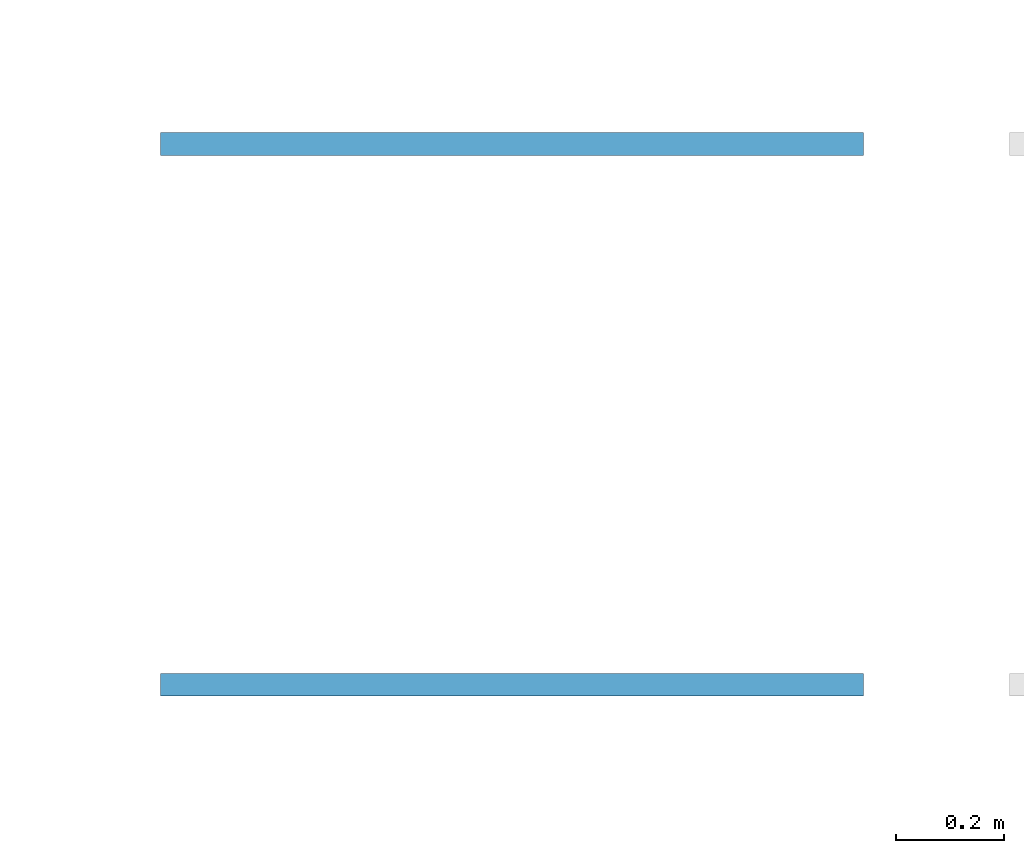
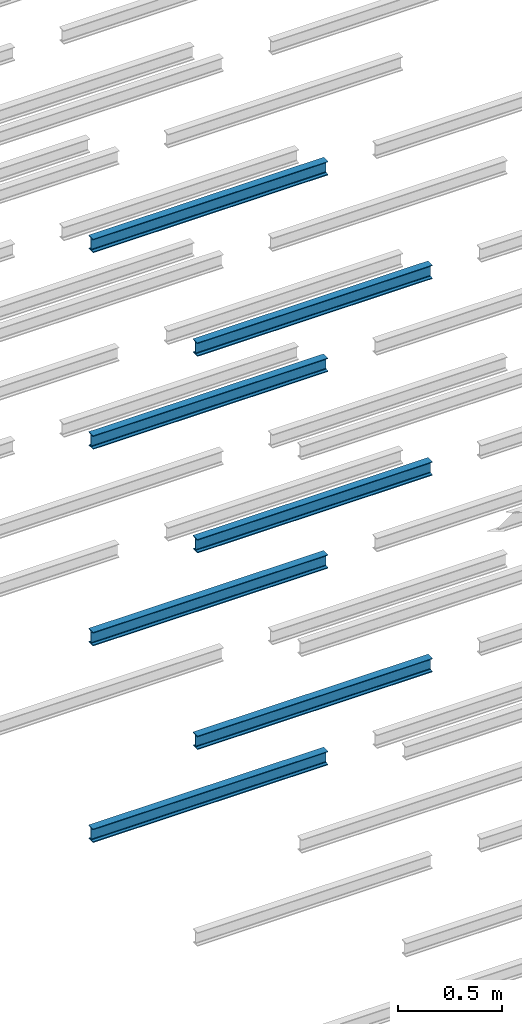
# One storey, part 79 of 290: 7 beams.
"""IFC2X3 building model written with IfcOpenShell, lengths in metres."""

from ifc_helpers import new_model, entity, si_unit, converted_unit, derived_unit, direction, frame, frame_2d, origin, place, context, subcontext, project, spatial, polyline, circle_curve, parameter, trimmed, segment, composite_curve, outline, extrude, material, type_object, element, save


model = new_model("IFC2X3")

# Units and contexts
model_context = context("Model", 3, precision=1e-05, world=origin(), true_north=direction((6.12303176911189e-17, 1.0)))
body_context = subcontext(model_context, "Body", "Model", "MODEL_VIEW")
ifc_project = project(units=[si_unit("LENGTHUNIT", "METRE"), si_unit("AREAUNIT", "SQUARE_METRE"), si_unit("VOLUMEUNIT", "CUBIC_METRE"), converted_unit("PLANEANGLEUNIT", "DEGREE", entity("IfcRatioMeasure", 0.0174532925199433), si_unit("PLANEANGLEUNIT", "RADIAN"), dimensions=[0, 0, 0, 0, 0, 0, 0]), si_unit("MASSUNIT", "GRAM", prefix="KILO"), derived_unit("MASSDENSITYUNIT", [(si_unit("MASSUNIT", "GRAM", prefix="KILO"), 1), (si_unit("LENGTHUNIT", "METRE"), -3)]), derived_unit("MOMENTOFINERTIAUNIT", [(si_unit("LENGTHUNIT", "METRE"), 4)]), si_unit("TIMEUNIT", "SECOND"), si_unit("FREQUENCYUNIT", "HERTZ"), si_unit("THERMODYNAMICTEMPERATUREUNIT", "DEGREE_CELSIUS"), derived_unit("THERMALTRANSMITTANCEUNIT", [(si_unit("MASSUNIT", "GRAM", prefix="KILO"), 1), (si_unit("THERMODYNAMICTEMPERATUREUNIT", "KELVIN"), -1), (si_unit("TIMEUNIT", "SECOND"), -3)]), derived_unit("VOLUMETRICFLOWRATEUNIT", [(si_unit("LENGTHUNIT", "METRE"), 3), (si_unit("TIMEUNIT", "SECOND"), -1)]), si_unit("ELECTRICCURRENTUNIT", "AMPERE"), si_unit("ELECTRICVOLTAGEUNIT", "VOLT"), si_unit("POWERUNIT", "WATT"), si_unit("FORCEUNIT", "NEWTON", prefix="KILO"), si_unit("ILLUMINANCEUNIT", "LUX"), si_unit("LUMINOUSFLUXUNIT", "LUMEN"), si_unit("LUMINOUSINTENSITYUNIT", "CANDELA"), derived_unit("USERDEFINED", [(si_unit("MASSUNIT", "GRAM", prefix="KILO"), -1), (si_unit("LENGTHUNIT", "METRE"), -2), (si_unit("TIMEUNIT", "SECOND"), 3), (si_unit("LUMINOUSFLUXUNIT", "LUMEN"), 1)]), derived_unit("LINEARVELOCITYUNIT", [(si_unit("LENGTHUNIT", "METRE"), 1), (si_unit("TIMEUNIT", "SECOND"), -1)]), si_unit("PRESSUREUNIT", "PASCAL"), derived_unit("USERDEFINED", [(si_unit("LENGTHUNIT", "METRE"), -2), (si_unit("MASSUNIT", "GRAM", prefix="KILO"), 1), (si_unit("TIMEUNIT", "SECOND"), -2)]), derived_unit("LINEARFORCEUNIT", [(si_unit("MASSUNIT", "GRAM", prefix="KILO"), 1), (si_unit("LENGTHUNIT", "METRE"), 1), (si_unit("TIMEUNIT", "SECOND"), -2), (si_unit("LENGTHUNIT", "METRE"), -1)]), derived_unit("PLANARFORCEUNIT", [(si_unit("MASSUNIT", "GRAM", prefix="KILO"), 1), (si_unit("LENGTHUNIT", "METRE"), 1), (si_unit("TIMEUNIT", "SECOND"), -2), (si_unit("LENGTHUNIT", "METRE"), -2)])], contexts=[model_context])

# Site, building, storey
site_placement = place(None, origin())
site = spatial("IfcSite", under=ifc_project, at=site_placement, Name="Default", CompositionType="ELEMENT")
building_placement = place(site_placement, origin())
building = spatial("IfcBuilding", under=site, at=building_placement, CompositionType="ELEMENT")
storey_placement = place(building_placement, frame((0.0, 0.0, 4.0)))
storey = spatial("IfcBuildingStorey", under=building, at=storey_placement, Name="01_OG", CompositionType="ELEMENT", Elevation=4.0)

# Beams
ifc_material = material(Name="Metall - Baustahl S235")
beam_type = type_object("IfcBeamType", Name="IPN Träger:IPN 80", PredefinedType="NOTDEFINED")
beam_1_placement = place(storey_placement, frame((-170.780111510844, 35.036588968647, -1.73), z_axis=(0.0, 0.0, 1.0), x_axis=(-1.0, 0.0, 0.0)))
element("IfcBeam", 1, at=beam_1_placement, inside=storey, type_object=beam_type, material=ifc_material, Name="IPN Träger:IPN 80", ObjectType="IPN Träger:IPN 80", context=body_context, shape_type="SweptSolid", body=[
    extrude(outline(composite_curve([segment(polyline([(0.0375704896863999, -0.0209999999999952), (0.0399999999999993, -0.0209999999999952)]), True, "CONTINUOUS"), segment(polyline([(0.0399999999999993, -0.0209999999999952), (0.0399999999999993, 0.0210000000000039)]), True, "CONTINUOUS"), segment(polyline([(0.0399999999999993, 0.0210000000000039), (0.0375704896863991, 0.0210000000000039)]), True, "CONTINUOUS"), segment(trimmed(circle_curve(frame_2d((0.0375704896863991, 0.0187000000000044), x_axis=(0.0, 1.0)), 0.00230000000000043), [parameter(0.0)], [parameter(82.0299999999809)], True, "PARAMETER"), True, "CONTINUOUS"), segment(polyline([(0.0352927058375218, 0.019018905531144), (0.0333732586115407, 0.00530924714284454)]), True, "CONTINUOUS"), segment(trimmed(circle_curve(frame_2d((0.0295109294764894, 0.005850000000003), x_axis=(0.990340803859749, -0.138654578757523)), 0.00389999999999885), [parameter(277.969999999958)], [parameter(0.0)], True, "PARAMETER"), False, "CONTINUOUS"), segment(polyline([(0.0295109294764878, 0.00195000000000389), (-0.0295109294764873, 0.00195000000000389)]), True, "CONTINUOUS"), segment(trimmed(circle_curve(frame_2d((-0.0295109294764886, 0.005850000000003), x_axis=(0.0, -1.0)), 0.00389999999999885), [parameter(277.969999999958)], [parameter(0.0)], True, "PARAMETER"), False, "CONTINUOUS"), segment(polyline([(-0.0333732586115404, 0.00530924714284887), (-0.0352927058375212, 0.0190189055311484)]), True, "CONTINUOUS"), segment(trimmed(circle_curve(frame_2d((-0.0375704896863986, 0.0187000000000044), x_axis=(0.990340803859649, 0.138654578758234)), 0.00230000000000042), [parameter(0.0)], [parameter(82.0299999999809)], True, "PARAMETER"), True, "CONTINUOUS"), segment(polyline([(-0.0375704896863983, 0.0210000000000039), (-0.0400000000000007, 0.0210000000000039)]), True, "CONTINUOUS"), segment(polyline([(-0.0400000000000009, 0.0210000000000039), (-0.0400000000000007, -0.0209999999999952)]), True, "CONTINUOUS"), segment(polyline([(-0.0400000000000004, -0.0209999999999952), (-0.0375704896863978, -0.0209999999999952)]), True, "CONTINUOUS"), segment(trimmed(circle_curve(frame_2d((-0.0375704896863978, -0.0186999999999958), x_axis=(0.0, -1.0)), 0.00230000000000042), [parameter(0.0)], [parameter(82.0299999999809)], True, "PARAMETER"), True, "CONTINUOUS"), segment(polyline([(-0.0352927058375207, -0.0190189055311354), (-0.0333732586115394, -0.00530924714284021)]), True, "CONTINUOUS"), segment(trimmed(circle_curve(frame_2d((-0.0295109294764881, -0.00584999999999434), x_axis=(-0.990340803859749, 0.138654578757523)), 0.00389999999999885), [parameter(277.969999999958)], [parameter(0.0)], True, "PARAMETER"), False, "CONTINUOUS"), segment(polyline([(-0.0295109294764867, -0.00194999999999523), (0.0295109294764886, -0.00194999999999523)]), True, "CONTINUOUS"), segment(trimmed(circle_curve(frame_2d((0.0295109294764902, -0.00584999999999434), x_axis=(0.0, 1.0)), 0.0038999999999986), [parameter(277.969999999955)], [parameter(0.0)], True, "PARAMETER"), False, "CONTINUOUS"), segment(polyline([(0.0333732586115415, -0.00530924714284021), (0.0352927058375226, -0.0190189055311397)]), True, "CONTINUOUS"), segment(trimmed(circle_curve(frame_2d((0.0375704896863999, -0.0186999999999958), x_axis=(-0.990340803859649, -0.138654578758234)), 0.00230000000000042), [parameter(0.0)], [parameter(82.0299999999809)], True, "PARAMETER"), True, "CONTINUOUS")], self_intersect=False)), frame((0.00010000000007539, 0.0209999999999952, -0.0400000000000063), z_axis=(1.0, 0.0, 0.0), x_axis=(0.0, 0.0, -1.0)), (0.0, 0.0, 1.0), 1.29990000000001),
])
beam_2_placement = place(storey_placement, frame((-170.780111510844, 35.036588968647, -0.579999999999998), z_axis=(0.0, 0.0, 1.0), x_axis=(-1.0, 0.0, 0.0)))
element("IfcBeam", 2, at=beam_2_placement, inside=storey, type_object=beam_type, material=ifc_material, Name="IPN Träger:IPN 80", ObjectType="IPN Träger:IPN 80", context=body_context, shape_type="SweptSolid", body=[
    extrude(outline(composite_curve([segment(polyline([(0.0375704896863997, -0.0209999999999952), (0.039999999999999, -0.0209999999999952)]), True, "CONTINUOUS"), segment(polyline([(0.039999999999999, -0.0209999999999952), (0.039999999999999, 0.0210000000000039)]), True, "CONTINUOUS"), segment(polyline([(0.039999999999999, 0.0210000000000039), (0.0375704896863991, 0.0210000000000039)]), True, "CONTINUOUS"), segment(trimmed(circle_curve(frame_2d((0.0375704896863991, 0.0187000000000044), x_axis=(0.0, 1.0)), 0.00230000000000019), [parameter(0.0)], [parameter(82.02999999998)], True, "PARAMETER"), True, "CONTINUOUS"), segment(polyline([(0.0352927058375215, 0.019018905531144), (0.0333732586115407, 0.00530924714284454)]), True, "CONTINUOUS"), segment(trimmed(circle_curve(frame_2d((0.0295109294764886, 0.005850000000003), x_axis=(0.990340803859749, -0.138654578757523)), 0.00389999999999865), [parameter(277.969999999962)], [parameter(0.0)], True, "PARAMETER"), False, "CONTINUOUS"), segment(polyline([(0.0295109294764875, 0.00195000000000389), (-0.0295109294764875, 0.00195000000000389)]), True, "CONTINUOUS"), segment(trimmed(circle_curve(frame_2d((-0.0295109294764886, 0.005850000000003), x_axis=(0.0, -1.0)), 0.00389999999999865), [parameter(277.969999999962)], [parameter(0.0)], True, "PARAMETER"), False, "CONTINUOUS"), segment(polyline([(-0.0333732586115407, 0.00530924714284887), (-0.0352927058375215, 0.0190189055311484)]), True, "CONTINUOUS"), segment(trimmed(circle_curve(frame_2d((-0.0375704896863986, 0.0187000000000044), x_axis=(0.990340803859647, 0.138654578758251)), 0.00230000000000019), [parameter(0.0)], [parameter(82.02999999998)], True, "PARAMETER"), True, "CONTINUOUS"), segment(polyline([(-0.0375704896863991, 0.0210000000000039), (-0.0400000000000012, 0.0210000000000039)]), True, "CONTINUOUS"), segment(polyline([(-0.0400000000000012, 0.0210000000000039), (-0.0400000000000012, -0.0209999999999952)]), True, "CONTINUOUS"), segment(polyline([(-0.0400000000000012, -0.0209999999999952), (-0.037570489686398, -0.0209999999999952)]), True, "CONTINUOUS"), segment(trimmed(circle_curve(frame_2d((-0.037570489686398, -0.0186999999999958), x_axis=(0.0, -1.0)), 0.00230000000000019), [parameter(0.0)], [parameter(82.02999999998)], True, "PARAMETER"), True, "CONTINUOUS"), segment(polyline([(-0.035292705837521, -0.0190189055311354), (-0.0333732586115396, -0.00530924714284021)]), True, "CONTINUOUS"), segment(trimmed(circle_curve(frame_2d((-0.0295109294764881, -0.00584999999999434), x_axis=(-0.990340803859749, 0.138654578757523)), 0.00389999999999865), [parameter(277.969999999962)], [parameter(0.0)], True, "PARAMETER"), False, "CONTINUOUS"), segment(polyline([(-0.029510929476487, -0.00194999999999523), (0.0295109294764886, -0.00194999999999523)]), True, "CONTINUOUS"), segment(trimmed(circle_curve(frame_2d((0.0295109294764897, -0.00584999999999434), x_axis=(0.0, 1.0)), 0.00389999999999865), [parameter(277.969999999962)], [parameter(0.0)], True, "PARAMETER"), False, "CONTINUOUS"), segment(polyline([(0.0333732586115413, -0.00530924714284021), (0.0352927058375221, -0.0190189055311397)]), True, "CONTINUOUS"), segment(trimmed(circle_curve(frame_2d((0.0375704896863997, -0.0186999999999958), x_axis=(-0.990340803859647, -0.138654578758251)), 0.00230000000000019), [parameter(0.0)], [parameter(82.02999999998)], True, "PARAMETER"), True, "CONTINUOUS")], self_intersect=False)), frame((0.000100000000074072, 0.0209999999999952, -0.0400000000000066), z_axis=(1.0, 0.0, 0.0), x_axis=(0.0, 0.0, -1.0)), (0.0, 0.0, 1.0), 1.29990000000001),
])
beam_3_placement = place(storey_placement, frame((-170.780111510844, 35.036588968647, 0.570000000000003), z_axis=(0.0, 0.0, 1.0), x_axis=(-1.0, 0.0, 0.0)))
element("IfcBeam", 3, at=beam_3_placement, inside=storey, type_object=beam_type, material=ifc_material, Name="IPN Träger:IPN 80", ObjectType="IPN Träger:IPN 80", context=body_context, shape_type="SweptSolid", body=[
    extrude(outline(composite_curve([segment(polyline([(0.0375704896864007, -0.0209999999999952), (0.0400000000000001, -0.0209999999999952)]), True, "CONTINUOUS"), segment(polyline([(0.0400000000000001, -0.0209999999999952), (0.0400000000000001, 0.0210000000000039)]), True, "CONTINUOUS"), segment(polyline([(0.0400000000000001, 0.0210000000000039), (0.0375704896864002, 0.0210000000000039)]), True, "CONTINUOUS"), segment(trimmed(circle_curve(frame_2d((0.0375704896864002, 0.0187000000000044), x_axis=(0.0, 1.0)), 0.00230000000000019), [parameter(0.0)], [parameter(82.02999999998)], True, "PARAMETER"), True, "CONTINUOUS"), segment(polyline([(0.0352927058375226, 0.019018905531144), (0.0333732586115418, 0.00530924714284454)]), True, "CONTINUOUS"), segment(trimmed(circle_curve(frame_2d((0.0295109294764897, 0.005850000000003), x_axis=(0.990340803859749, -0.138654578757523)), 0.00389999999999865), [parameter(277.969999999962)], [parameter(0.0)], True, "PARAMETER"), False, "CONTINUOUS"), segment(polyline([(0.0295109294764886, 0.00195000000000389), (-0.0295109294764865, 0.00195000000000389)]), True, "CONTINUOUS"), segment(trimmed(circle_curve(frame_2d((-0.0295109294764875, 0.005850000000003), x_axis=(0.0, -1.0)), 0.00389999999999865), [parameter(277.969999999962)], [parameter(0.0)], True, "PARAMETER"), False, "CONTINUOUS"), segment(polyline([(-0.0333732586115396, 0.00530924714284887), (-0.0352927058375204, 0.0190189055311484)]), True, "CONTINUOUS"), segment(trimmed(circle_curve(frame_2d((-0.0375704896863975, 0.0187000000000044), x_axis=(0.990340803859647, 0.138654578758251)), 0.00230000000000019), [parameter(0.0)], [parameter(82.02999999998)], True, "PARAMETER"), True, "CONTINUOUS"), segment(polyline([(-0.037570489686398, 0.0210000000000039), (-0.0400000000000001, 0.0210000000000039)]), True, "CONTINUOUS"), segment(polyline([(-0.0400000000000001, 0.0210000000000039), (-0.0400000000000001, -0.0209999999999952)]), True, "CONTINUOUS"), segment(polyline([(-0.0400000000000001, -0.0209999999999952), (-0.0375704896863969, -0.0209999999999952)]), True, "CONTINUOUS"), segment(trimmed(circle_curve(frame_2d((-0.0375704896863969, -0.0186999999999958), x_axis=(0.0, -1.0)), 0.00230000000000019), [parameter(0.0)], [parameter(82.02999999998)], True, "PARAMETER"), True, "CONTINUOUS"), segment(polyline([(-0.0352927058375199, -0.0190189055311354), (-0.0333732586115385, -0.00530924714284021)]), True, "CONTINUOUS"), segment(trimmed(circle_curve(frame_2d((-0.029510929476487, -0.00584999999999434), x_axis=(-0.990340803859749, 0.138654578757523)), 0.00389999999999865), [parameter(277.969999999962)], [parameter(0.0)], True, "PARAMETER"), False, "CONTINUOUS"), segment(polyline([(-0.0295109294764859, -0.00194999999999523), (0.0295109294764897, -0.00194999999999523)]), True, "CONTINUOUS"), segment(trimmed(circle_curve(frame_2d((0.0295109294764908, -0.00584999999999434), x_axis=(0.0, 1.0)), 0.00389999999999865), [parameter(277.969999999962)], [parameter(0.0)], True, "PARAMETER"), False, "CONTINUOUS"), segment(polyline([(0.0333732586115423, -0.00530924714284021), (0.0352927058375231, -0.0190189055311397)]), True, "CONTINUOUS"), segment(trimmed(circle_curve(frame_2d((0.0375704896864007, -0.0186999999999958), x_axis=(-0.990340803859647, -0.138654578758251)), 0.00230000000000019), [parameter(0.0)], [parameter(82.02999999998)], True, "PARAMETER"), True, "CONTINUOUS")], self_intersect=False)), frame((0.000100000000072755, 0.0209999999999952, -0.0400000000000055), z_axis=(1.0, 0.0, 0.0), x_axis=(0.0, 0.0, -1.0)), (0.0, 0.0, 1.0), 1.29990000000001),
])
beam_4_placement = place(storey_placement, frame((-170.780111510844, 35.036588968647, 1.72), z_axis=(0.0, 0.0, 1.0), x_axis=(-1.0, 0.0, 0.0)))
element("IfcBeam", 4, at=beam_4_placement, inside=storey, type_object=beam_type, material=ifc_material, Name="IPN Träger:IPN 80", ObjectType="IPN Träger:IPN 80", context=body_context, shape_type="SweptSolid", body=[
    extrude(outline(composite_curve([segment(polyline([(0.0375704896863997, -0.0209999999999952), (0.0399999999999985, -0.0209999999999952)]), True, "CONTINUOUS"), segment(polyline([(0.0399999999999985, -0.0209999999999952), (0.0399999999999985, 0.0210000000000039)]), True, "CONTINUOUS"), segment(polyline([(0.0399999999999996, 0.0210000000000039), (0.0375704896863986, 0.0210000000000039)]), True, "CONTINUOUS"), segment(trimmed(circle_curve(frame_2d((0.0375704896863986, 0.0187000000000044), x_axis=(0.0, 1.0)), 0.00230000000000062), [parameter(0.0)], [parameter(82.0299999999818)], True, "PARAMETER"), True, "CONTINUOUS"), segment(polyline([(0.0352927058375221, 0.019018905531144), (0.0333732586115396, 0.00530924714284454)]), True, "CONTINUOUS"), segment(trimmed(circle_curve(frame_2d((0.0295109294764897, 0.005850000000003), x_axis=(0.990340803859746, -0.138654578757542)), 0.00389999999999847), [parameter(277.969999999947)], [parameter(0.0)], True, "PARAMETER"), False, "CONTINUOUS"), segment(polyline([(0.0295109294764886, 0.00195000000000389), (-0.0295109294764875, 0.00195000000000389)]), True, "CONTINUOUS"), segment(trimmed(circle_curve(frame_2d((-0.0295109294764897, 0.005850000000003), x_axis=(0.0, -1.0)), 0.00389999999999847), [parameter(277.969999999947)], [parameter(0.0)], True, "PARAMETER"), False, "CONTINUOUS"), segment(polyline([(-0.0333732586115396, 0.00530924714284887), (-0.0352927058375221, 0.0190189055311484)]), True, "CONTINUOUS"), segment(trimmed(circle_curve(frame_2d((-0.0375704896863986, 0.0187000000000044), x_axis=(0.990340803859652, 0.138654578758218)), 0.00230000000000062), [parameter(0.0)], [parameter(82.0299999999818)], True, "PARAMETER"), True, "CONTINUOUS"), segment(polyline([(-0.0375704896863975, 0.0210000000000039), (-0.0400000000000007, 0.0210000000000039)]), True, "CONTINUOUS"), segment(polyline([(-0.0400000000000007, 0.0210000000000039), (-0.0400000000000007, -0.0209999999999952)]), True, "CONTINUOUS"), segment(polyline([(-0.0400000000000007, -0.0209999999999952), (-0.0375704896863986, -0.0209999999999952)]), True, "CONTINUOUS"), segment(trimmed(circle_curve(frame_2d((-0.0375704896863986, -0.0186999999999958), x_axis=(0.0, -1.0)), 0.00230000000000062), [parameter(0.0)], [parameter(82.0299999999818)], True, "PARAMETER"), True, "CONTINUOUS"), segment(polyline([(-0.035292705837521, -0.0190189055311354), (-0.0333732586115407, -0.00530924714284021)]), True, "CONTINUOUS"), segment(trimmed(circle_curve(frame_2d((-0.0295109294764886, -0.00584999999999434), x_axis=(-0.990340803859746, 0.138654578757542)), 0.00389999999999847), [parameter(277.969999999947)], [parameter(0.0)], True, "PARAMETER"), False, "CONTINUOUS"), segment(polyline([(-0.0295109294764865, -0.00194999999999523), (0.0295109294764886, -0.00194999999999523)]), True, "CONTINUOUS"), segment(trimmed(circle_curve(frame_2d((0.0295109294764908, -0.00584999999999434), x_axis=(0.0, 1.0)), 0.00389999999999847), [parameter(277.969999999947)], [parameter(0.0)], True, "PARAMETER"), False, "CONTINUOUS"), segment(polyline([(0.0333732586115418, -0.00530924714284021), (0.0352927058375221, -0.0190189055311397)]), True, "CONTINUOUS"), segment(trimmed(circle_curve(frame_2d((0.0375704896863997, -0.0186999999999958), x_axis=(-0.990340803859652, -0.138654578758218)), 0.00230000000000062), [parameter(0.0)], [parameter(82.0299999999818)], True, "PARAMETER"), True, "CONTINUOUS")], self_intersect=False)), frame((0.000100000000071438, 0.0209999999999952, -0.040000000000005), z_axis=(1.0, 0.0, 0.0), x_axis=(0.0, 0.0, -1.0)), (0.0, 0.0, 1.0), 1.29990000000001),
])
beam_5_placement = place(storey_placement, frame((-170.780111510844, 34.036588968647, -0.579999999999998), z_axis=(0.0, 0.0, 1.0), x_axis=(-1.0, 0.0, 0.0)))
element("IfcBeam", 5, at=beam_5_placement, inside=storey, type_object=beam_type, material=ifc_material, Name="IPN Träger:IPN 80", ObjectType="IPN Träger:IPN 80", context=body_context, shape_type="SweptSolid", body=[
    extrude(outline(composite_curve([segment(polyline([(0.0375704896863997, -0.0209999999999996), (0.039999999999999, -0.0209999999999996)]), True, "CONTINUOUS"), segment(polyline([(0.039999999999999, -0.0209999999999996), (0.039999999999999, 0.0209999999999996)]), True, "CONTINUOUS"), segment(polyline([(0.039999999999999, 0.0209999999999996), (0.0375704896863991, 0.0209999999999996)]), True, "CONTINUOUS"), segment(trimmed(circle_curve(frame_2d((0.0375704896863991, 0.0187000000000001), x_axis=(0.0, 1.0)), 0.00230000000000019), [parameter(0.0)], [parameter(82.02999999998)], True, "PARAMETER"), True, "CONTINUOUS"), segment(polyline([(0.0352927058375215, 0.0190189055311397), (0.0333732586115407, 0.00530924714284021)]), True, "CONTINUOUS"), segment(trimmed(circle_curve(frame_2d((0.0295109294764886, 0.00584999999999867), x_axis=(0.990340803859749, -0.138654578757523)), 0.00389999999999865), [parameter(277.969999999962)], [parameter(0.0)], True, "PARAMETER"), False, "CONTINUOUS"), segment(polyline([(0.0295109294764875, 0.00194999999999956), (-0.0295109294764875, 0.00194999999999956)]), True, "CONTINUOUS"), segment(trimmed(circle_curve(frame_2d((-0.0295109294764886, 0.00584999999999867), x_axis=(0.0, -1.0)), 0.00389999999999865), [parameter(277.969999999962)], [parameter(0.0)], True, "PARAMETER"), False, "CONTINUOUS"), segment(polyline([(-0.0333732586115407, 0.00530924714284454), (-0.0352927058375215, 0.019018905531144)]), True, "CONTINUOUS"), segment(trimmed(circle_curve(frame_2d((-0.0375704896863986, 0.0187000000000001), x_axis=(0.990340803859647, 0.138654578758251)), 0.00230000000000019), [parameter(0.0)], [parameter(82.02999999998)], True, "PARAMETER"), True, "CONTINUOUS"), segment(polyline([(-0.0375704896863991, 0.0209999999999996), (-0.0400000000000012, 0.0209999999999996)]), True, "CONTINUOUS"), segment(polyline([(-0.0400000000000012, 0.0209999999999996), (-0.0400000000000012, -0.0209999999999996)]), True, "CONTINUOUS"), segment(polyline([(-0.0400000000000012, -0.0209999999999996), (-0.037570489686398, -0.0209999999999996)]), True, "CONTINUOUS"), segment(trimmed(circle_curve(frame_2d((-0.037570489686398, -0.0187000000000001), x_axis=(0.0, -1.0)), 0.00230000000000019), [parameter(0.0)], [parameter(82.02999999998)], True, "PARAMETER"), True, "CONTINUOUS"), segment(polyline([(-0.035292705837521, -0.0190189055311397), (-0.0333732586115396, -0.00530924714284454)]), True, "CONTINUOUS"), segment(trimmed(circle_curve(frame_2d((-0.0295109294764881, -0.00584999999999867), x_axis=(-0.990340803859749, 0.138654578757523)), 0.00389999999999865), [parameter(277.969999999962)], [parameter(0.0)], True, "PARAMETER"), False, "CONTINUOUS"), segment(polyline([(-0.029510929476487, -0.00194999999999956), (0.0295109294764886, -0.00194999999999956)]), True, "CONTINUOUS"), segment(trimmed(circle_curve(frame_2d((0.0295109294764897, -0.00584999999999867), x_axis=(0.0, 1.0)), 0.00389999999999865), [parameter(277.969999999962)], [parameter(0.0)], True, "PARAMETER"), False, "CONTINUOUS"), segment(polyline([(0.0333732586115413, -0.00530924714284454), (0.0352927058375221, -0.019018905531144)]), True, "CONTINUOUS"), segment(trimmed(circle_curve(frame_2d((0.0375704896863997, -0.0187000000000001), x_axis=(-0.990340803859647, -0.138654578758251)), 0.00230000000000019), [parameter(0.0)], [parameter(82.02999999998)], True, "PARAMETER"), True, "CONTINUOUS")], self_intersect=False)), frame((0.000100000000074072, 0.0209999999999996, -0.0400000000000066), z_axis=(1.0, 0.0, 0.0), x_axis=(0.0, 0.0, -1.0)), (0.0, 0.0, 1.0), 1.29990000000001),
])
beam_6_placement = place(storey_placement, frame((-170.780111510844, 34.036588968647, 0.570000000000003), z_axis=(0.0, 0.0, 1.0), x_axis=(-1.0, 0.0, 0.0)))
element("IfcBeam", 6, at=beam_6_placement, inside=storey, type_object=beam_type, material=ifc_material, Name="IPN Träger:IPN 80", ObjectType="IPN Träger:IPN 80", context=body_context, shape_type="SweptSolid", body=[
    extrude(outline(composite_curve([segment(polyline([(0.0375704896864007, -0.0209999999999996), (0.0400000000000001, -0.0209999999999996)]), True, "CONTINUOUS"), segment(polyline([(0.0400000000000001, -0.0209999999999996), (0.0400000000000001, 0.0209999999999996)]), True, "CONTINUOUS"), segment(polyline([(0.0400000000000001, 0.0209999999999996), (0.0375704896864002, 0.0209999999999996)]), True, "CONTINUOUS"), segment(trimmed(circle_curve(frame_2d((0.0375704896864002, 0.0187000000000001), x_axis=(0.0, 1.0)), 0.00230000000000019), [parameter(0.0)], [parameter(82.02999999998)], True, "PARAMETER"), True, "CONTINUOUS"), segment(polyline([(0.0352927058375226, 0.0190189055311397), (0.0333732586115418, 0.00530924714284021)]), True, "CONTINUOUS"), segment(trimmed(circle_curve(frame_2d((0.0295109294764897, 0.00584999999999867), x_axis=(0.990340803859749, -0.138654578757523)), 0.00389999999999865), [parameter(277.969999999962)], [parameter(0.0)], True, "PARAMETER"), False, "CONTINUOUS"), segment(polyline([(0.0295109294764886, 0.00194999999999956), (-0.0295109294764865, 0.00194999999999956)]), True, "CONTINUOUS"), segment(trimmed(circle_curve(frame_2d((-0.0295109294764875, 0.00584999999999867), x_axis=(0.0, -1.0)), 0.00389999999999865), [parameter(277.969999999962)], [parameter(0.0)], True, "PARAMETER"), False, "CONTINUOUS"), segment(polyline([(-0.0333732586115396, 0.00530924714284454), (-0.0352927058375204, 0.019018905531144)]), True, "CONTINUOUS"), segment(trimmed(circle_curve(frame_2d((-0.0375704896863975, 0.0187000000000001), x_axis=(0.990340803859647, 0.138654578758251)), 0.00230000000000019), [parameter(0.0)], [parameter(82.02999999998)], True, "PARAMETER"), True, "CONTINUOUS"), segment(polyline([(-0.037570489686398, 0.0209999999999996), (-0.0400000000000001, 0.0209999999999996)]), True, "CONTINUOUS"), segment(polyline([(-0.0400000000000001, 0.0209999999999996), (-0.0400000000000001, -0.0209999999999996)]), True, "CONTINUOUS"), segment(polyline([(-0.0400000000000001, -0.0209999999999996), (-0.0375704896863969, -0.0209999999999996)]), True, "CONTINUOUS"), segment(trimmed(circle_curve(frame_2d((-0.0375704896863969, -0.0187000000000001), x_axis=(0.0, -1.0)), 0.00230000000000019), [parameter(0.0)], [parameter(82.02999999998)], True, "PARAMETER"), True, "CONTINUOUS"), segment(polyline([(-0.0352927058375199, -0.0190189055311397), (-0.0333732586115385, -0.00530924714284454)]), True, "CONTINUOUS"), segment(trimmed(circle_curve(frame_2d((-0.029510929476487, -0.00584999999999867), x_axis=(-0.990340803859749, 0.138654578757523)), 0.00389999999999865), [parameter(277.969999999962)], [parameter(0.0)], True, "PARAMETER"), False, "CONTINUOUS"), segment(polyline([(-0.0295109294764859, -0.00194999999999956), (0.0295109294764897, -0.00194999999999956)]), True, "CONTINUOUS"), segment(trimmed(circle_curve(frame_2d((0.0295109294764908, -0.00584999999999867), x_axis=(0.0, 1.0)), 0.00389999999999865), [parameter(277.969999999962)], [parameter(0.0)], True, "PARAMETER"), False, "CONTINUOUS"), segment(polyline([(0.0333732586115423, -0.00530924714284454), (0.0352927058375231, -0.019018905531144)]), True, "CONTINUOUS"), segment(trimmed(circle_curve(frame_2d((0.0375704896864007, -0.0187000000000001), x_axis=(-0.990340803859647, -0.138654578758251)), 0.00230000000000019), [parameter(0.0)], [parameter(82.02999999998)], True, "PARAMETER"), True, "CONTINUOUS")], self_intersect=False)), frame((0.000100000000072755, 0.0209999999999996, -0.0400000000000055), z_axis=(1.0, 0.0, 0.0), x_axis=(0.0, 0.0, -1.0)), (0.0, 0.0, 1.0), 1.29990000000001),
])
beam_7_placement = place(storey_placement, frame((-170.780111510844, 34.036588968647, 1.72), z_axis=(0.0, 0.0, 1.0), x_axis=(-1.0, 0.0, 0.0)))
element("IfcBeam", 7, at=beam_7_placement, inside=storey, type_object=beam_type, material=ifc_material, Name="IPN Träger:IPN 80", ObjectType="IPN Träger:IPN 80", context=body_context, shape_type="SweptSolid", body=[
    extrude(outline(composite_curve([segment(polyline([(0.0375704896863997, -0.0209999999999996), (0.0399999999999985, -0.0209999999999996)]), True, "CONTINUOUS"), segment(polyline([(0.0399999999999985, -0.0209999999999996), (0.0399999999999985, 0.0209999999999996)]), True, "CONTINUOUS"), segment(polyline([(0.0399999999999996, 0.0209999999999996), (0.0375704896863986, 0.0209999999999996)]), True, "CONTINUOUS"), segment(trimmed(circle_curve(frame_2d((0.0375704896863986, 0.0187000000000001), x_axis=(0.0, 1.0)), 0.00230000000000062), [parameter(0.0)], [parameter(82.0299999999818)], True, "PARAMETER"), True, "CONTINUOUS"), segment(polyline([(0.0352927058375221, 0.0190189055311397), (0.0333732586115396, 0.00530924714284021)]), True, "CONTINUOUS"), segment(trimmed(circle_curve(frame_2d((0.0295109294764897, 0.00584999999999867), x_axis=(0.990340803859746, -0.138654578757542)), 0.00389999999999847), [parameter(277.969999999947)], [parameter(0.0)], True, "PARAMETER"), False, "CONTINUOUS"), segment(polyline([(0.0295109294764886, 0.00194999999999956), (-0.0295109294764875, 0.00194999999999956)]), True, "CONTINUOUS"), segment(trimmed(circle_curve(frame_2d((-0.0295109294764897, 0.00584999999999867), x_axis=(0.0, -1.0)), 0.00389999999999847), [parameter(277.969999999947)], [parameter(0.0)], True, "PARAMETER"), False, "CONTINUOUS"), segment(polyline([(-0.0333732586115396, 0.00530924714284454), (-0.0352927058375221, 0.019018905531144)]), True, "CONTINUOUS"), segment(trimmed(circle_curve(frame_2d((-0.0375704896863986, 0.0187000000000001), x_axis=(0.990340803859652, 0.138654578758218)), 0.00230000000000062), [parameter(0.0)], [parameter(82.0299999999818)], True, "PARAMETER"), True, "CONTINUOUS"), segment(polyline([(-0.0375704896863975, 0.0209999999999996), (-0.0400000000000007, 0.0209999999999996)]), True, "CONTINUOUS"), segment(polyline([(-0.0400000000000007, 0.0209999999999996), (-0.0400000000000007, -0.0209999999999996)]), True, "CONTINUOUS"), segment(polyline([(-0.0400000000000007, -0.0209999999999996), (-0.0375704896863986, -0.0209999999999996)]), True, "CONTINUOUS"), segment(trimmed(circle_curve(frame_2d((-0.0375704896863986, -0.0187000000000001), x_axis=(0.0, -1.0)), 0.00230000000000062), [parameter(0.0)], [parameter(82.0299999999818)], True, "PARAMETER"), True, "CONTINUOUS"), segment(polyline([(-0.035292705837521, -0.0190189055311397), (-0.0333732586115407, -0.00530924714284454)]), True, "CONTINUOUS"), segment(trimmed(circle_curve(frame_2d((-0.0295109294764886, -0.00584999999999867), x_axis=(-0.990340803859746, 0.138654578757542)), 0.00389999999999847), [parameter(277.969999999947)], [parameter(0.0)], True, "PARAMETER"), False, "CONTINUOUS"), segment(polyline([(-0.0295109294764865, -0.00194999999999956), (0.0295109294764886, -0.00194999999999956)]), True, "CONTINUOUS"), segment(trimmed(circle_curve(frame_2d((0.0295109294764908, -0.00584999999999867), x_axis=(0.0, 1.0)), 0.00389999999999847), [parameter(277.969999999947)], [parameter(0.0)], True, "PARAMETER"), False, "CONTINUOUS"), segment(polyline([(0.0333732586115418, -0.00530924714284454), (0.0352927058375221, -0.019018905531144)]), True, "CONTINUOUS"), segment(trimmed(circle_curve(frame_2d((0.0375704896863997, -0.0187000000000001), x_axis=(-0.990340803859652, -0.138654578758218)), 0.00230000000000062), [parameter(0.0)], [parameter(82.0299999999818)], True, "PARAMETER"), True, "CONTINUOUS")], self_intersect=False)), frame((0.000100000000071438, 0.0209999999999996, -0.040000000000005), z_axis=(1.0, 0.0, 0.0), x_axis=(0.0, 0.0, -1.0)), (0.0, 0.0, 1.0), 1.29990000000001),
])

save(model, "model.ifc")
